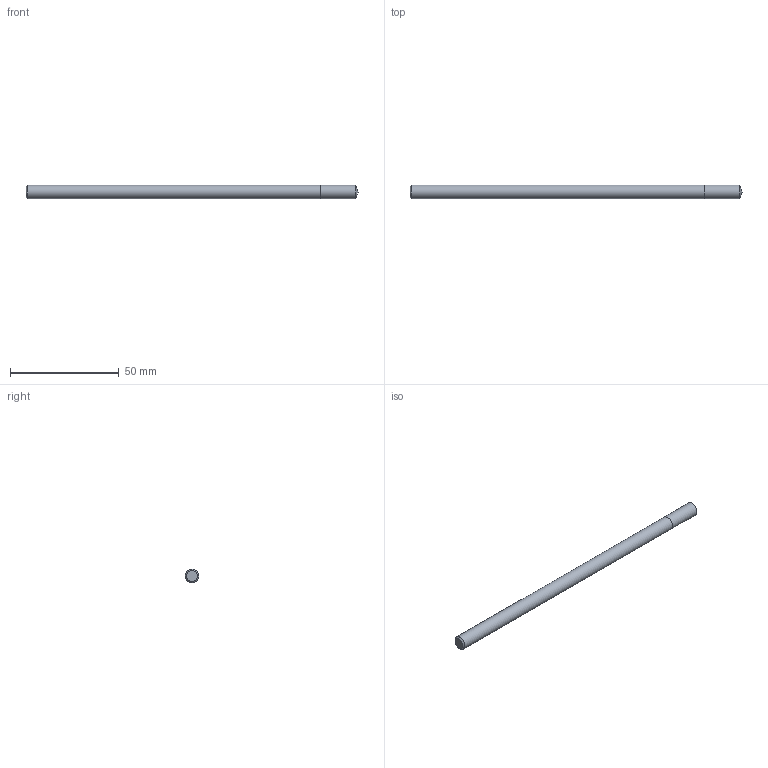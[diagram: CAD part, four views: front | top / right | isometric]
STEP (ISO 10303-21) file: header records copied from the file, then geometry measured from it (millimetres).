
FILE_DESCRIPTION (( 'STEP AP214' ), '1' );
FILE_NAME ('03-2232.STEP', '2022-02-07T07:06:40', ( 'USER' ), ( '' ), 'SwSTEP 2.0', 'SolidWorks 2018', '' );
FILE_SCHEMA (( 'AUTOMOTIVE_DESIGN' ));
Length unit declared in the file: millimetre
Products named in the file (1): 03-2232
Bounding box: 152.4 x 6.35 x 6.35 mm (x, y, z)
Volume: 4799.6 mm3; surface area: 3139 mm2
Topology: 2 solids, 2 shells, 7 faces, 11 edges, 7 vertices
Faces by surface type: plane 3, cylinder 2, cone 2
Full cylindrical faces by diameter (mm): 6.35 x2
Entity records: 189 total; most frequent: DIRECTION 26, CARTESIAN_POINT 18, AXIS2_PLACEMENT_3D 13, ORIENTED_EDGE 10, EDGE_LOOP 10, FACE_OUTER_BOUND 9, ADVANCED_FACE 7, UNCERTAINTY_MEASURE_WITH_UNIT 6
